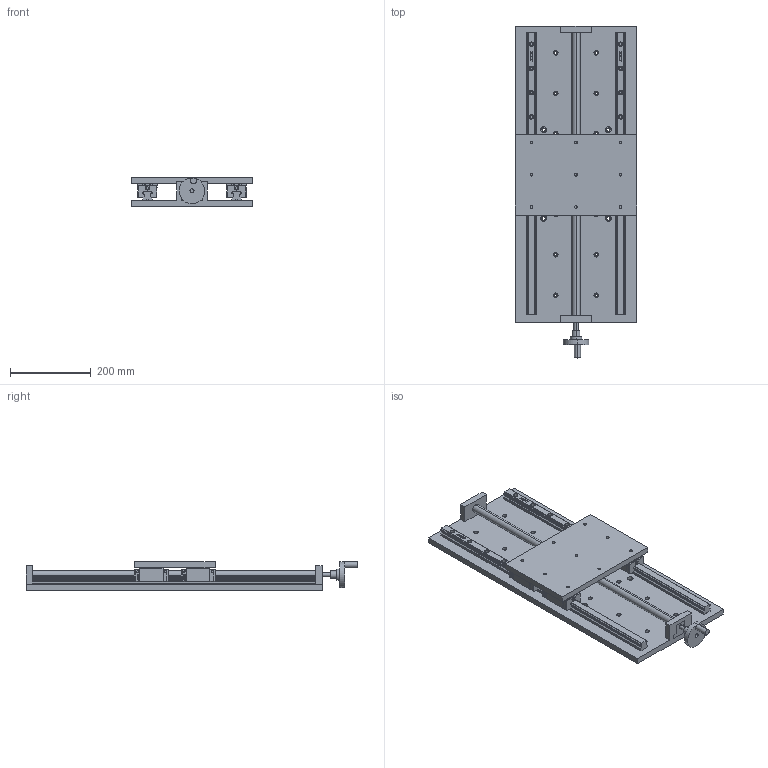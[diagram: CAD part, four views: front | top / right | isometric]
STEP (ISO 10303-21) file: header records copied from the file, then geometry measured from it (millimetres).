
FILE_DESCRIPTION (( 'STEP AP214' ), '1' );
FILE_NAME ('PT300-500.STEP', '2022-09-18T06:07:51', ( '' ), ( '' ), 'SwSTEP 2.0', 'SolidWorks 2017', '' );
FILE_SCHEMA (( 'AUTOMOTIVE_DESIGN' ));
Length unit declared in the file: millimetre
Products named in the file (12): 標踡; 34320001; 醱啣; 菁啣-500; 忒謫; HGH25C__X2_5DE65C01_X0__temp; HGH25C__X2_53F35C01_X0__temp; 標踡輸; M6H; HGR25_temp-500; PT300-500; HGH25CA2R300Z0C_GW202204023669
Assembly tree (12 placements, depth 3):
  PT300-500
    菁啣-500
    醱啣
    HGH25CA2R300Z0C_GW202204023669  x2
      HGR25_temp-500
      HGH25C__X2_53F35C01_X0__temp
      M6H
      HGH25C__X2_5DE65C01_X0__temp
      34320001
    標踡
      標踡輸
      忒謫
Bounding box: 300 x 822.1 x 70.06 mm (x, y, z)
Volume: 5563967.7 mm3; surface area: 946222.7 mm2
Topology: 31 solids, 33 shells, 2856 faces, 8017 edges, 5288 vertices
Faces by surface type: plane 1884, cylinder 782, bspline 126, cone 56, torus 8
Entity records: 65058 total; most frequent: CARTESIAN_POINT 10146, ORIENTED_EDGE 8374, DIRECTION 7897, EDGE_CURVE 4187, VECTOR 3057, LINE 3057, VERTEX_POINT 2777, AXIS2_PLACEMENT_3D 2420
